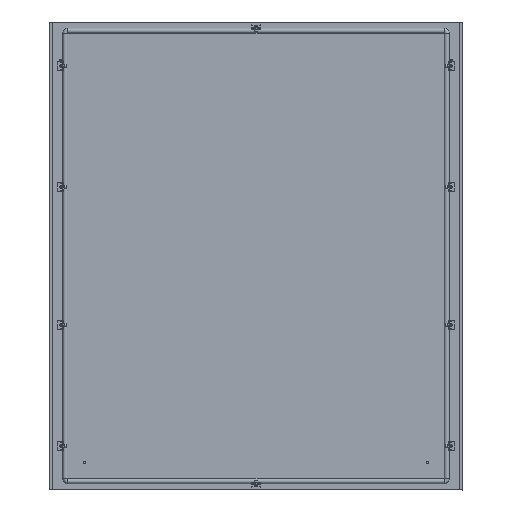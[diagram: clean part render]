
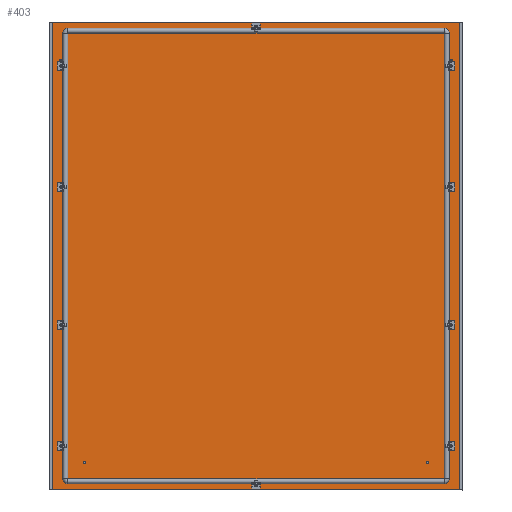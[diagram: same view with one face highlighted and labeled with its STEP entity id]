
A CAD part, top view. The second image highlights one B-rep face of the part: STEP entity #403.
In plain terms, the highlighted planar face has unit normal (0, 0, 1).
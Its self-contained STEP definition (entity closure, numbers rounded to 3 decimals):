
#403 = ADVANCED_FACE('',(#404,#502,#513,#524,#535,#546,#566,#586,#597,
    #608,#628),#648,.F.);
#404 = FACE_BOUND('',#405,.T.);
#405 = EDGE_LOOP('',(#406,#416,#424,#432,#440,#448,#456,#464,#472,#480,
    #488,#496));
#406 = ORIENTED_EDGE('',*,*,#407,.F.);
#407 = EDGE_CURVE('',#408,#410,#412,.T.);
#408 = VERTEX_POINT('',#409);
#409 = CARTESIAN_POINT('',(-595.5,677.5,0.));
#410 = VERTEX_POINT('',#411);
#411 = CARTESIAN_POINT('',(-595.3,677.5,0.));
#412 = LINE('',#413,#414);
#413 = CARTESIAN_POINT('',(0.,677.5,0.)
  );
#414 = VECTOR('',#415,1.);
#415 = DIRECTION('',(1.,0.,0.));
#416 = ORIENTED_EDGE('',*,*,#417,.T.);
#417 = EDGE_CURVE('',#408,#418,#420,.T.);
#418 = VERTEX_POINT('',#419);
#419 = CARTESIAN_POINT('',(-595.5,-677.5,
    0.));
#420 = LINE('',#421,#422);
#421 = CARTESIAN_POINT('',(-595.5,0.,0.));
#422 = VECTOR('',#423,1.);
#423 = DIRECTION('',(0.,-1.,-0.));
#424 = ORIENTED_EDGE('',*,*,#425,.T.);
#425 = EDGE_CURVE('',#418,#426,#428,.T.);
#426 = VERTEX_POINT('',#427);
#427 = CARTESIAN_POINT('',(-595.3,-677.5,
    0.));
#428 = LINE('',#429,#430);
#429 = CARTESIAN_POINT('',(0.,-677.5,
    0.));
#430 = VECTOR('',#431,1.);
#431 = DIRECTION('',(1.,-0.,-0.));
#432 = ORIENTED_EDGE('',*,*,#433,.F.);
#433 = EDGE_CURVE('',#434,#426,#436,.T.);
#434 = VERTEX_POINT('',#435);
#435 = CARTESIAN_POINT('',(-595.3,-676.,0.));
#436 = LINE('',#437,#438);
#437 = CARTESIAN_POINT('',(-595.3,0.,
    0.));
#438 = VECTOR('',#439,1.);
#439 = DIRECTION('',(0.,-1.,0.));
#440 = ORIENTED_EDGE('',*,*,#441,.T.);
#441 = EDGE_CURVE('',#434,#442,#444,.T.);
#442 = VERTEX_POINT('',#443);
#443 = CARTESIAN_POINT('',(595.3,-676.,0.));
#444 = LINE('',#445,#446);
#445 = CARTESIAN_POINT('',(0.,-676.,0.)
  );
#446 = VECTOR('',#447,1.);
#447 = DIRECTION('',(1.,-0.,-0.));
#448 = ORIENTED_EDGE('',*,*,#449,.T.);
#449 = EDGE_CURVE('',#442,#450,#452,.T.);
#450 = VERTEX_POINT('',#451);
#451 = CARTESIAN_POINT('',(595.3,-677.5,0.));
#452 = LINE('',#453,#454);
#453 = CARTESIAN_POINT('',(595.3,-676.,0.));
#454 = VECTOR('',#455,1.);
#455 = DIRECTION('',(0.,-1.,-0.));
#456 = ORIENTED_EDGE('',*,*,#457,.F.);
#457 = EDGE_CURVE('',#458,#450,#460,.T.);
#458 = VERTEX_POINT('',#459);
#459 = CARTESIAN_POINT('',(595.5,-677.5,0.));
#460 = LINE('',#461,#462);
#461 = CARTESIAN_POINT('',(0.,-677.5,0.
    ));
#462 = VECTOR('',#463,1.);
#463 = DIRECTION('',(-1.,0.,0.));
#464 = ORIENTED_EDGE('',*,*,#465,.T.);
#465 = EDGE_CURVE('',#458,#466,#468,.T.);
#466 = VERTEX_POINT('',#467);
#467 = CARTESIAN_POINT('',(595.5,677.5,0.));
#468 = LINE('',#469,#470);
#469 = CARTESIAN_POINT('',(595.5,0.,0.));
#470 = VECTOR('',#471,1.);
#471 = DIRECTION('',(-0.,1.,-0.));
#472 = ORIENTED_EDGE('',*,*,#473,.T.);
#473 = EDGE_CURVE('',#466,#474,#476,.T.);
#474 = VERTEX_POINT('',#475);
#475 = CARTESIAN_POINT('',(595.3,677.5,0.));
#476 = LINE('',#477,#478);
#477 = CARTESIAN_POINT('',(0.,677.5,0.)
  );
#478 = VECTOR('',#479,1.);
#479 = DIRECTION('',(-1.,-0.,-0.));
#480 = ORIENTED_EDGE('',*,*,#481,.F.);
#481 = EDGE_CURVE('',#482,#474,#484,.T.);
#482 = VERTEX_POINT('',#483);
#483 = CARTESIAN_POINT('',(595.3,676.,0.));
#484 = LINE('',#485,#486);
#485 = CARTESIAN_POINT('',(595.3,0.,
    0.));
#486 = VECTOR('',#487,1.);
#487 = DIRECTION('',(0.,1.,0.));
#488 = ORIENTED_EDGE('',*,*,#489,.T.);
#489 = EDGE_CURVE('',#482,#490,#492,.T.);
#490 = VERTEX_POINT('',#491);
#491 = CARTESIAN_POINT('',(-595.3,676.,0.));
#492 = LINE('',#493,#494);
#493 = CARTESIAN_POINT('',(0.,676.,0.)
  );
#494 = VECTOR('',#495,1.);
#495 = DIRECTION('',(-1.,-0.,-0.));
#496 = ORIENTED_EDGE('',*,*,#497,.T.);
#497 = EDGE_CURVE('',#490,#410,#498,.T.);
#498 = LINE('',#499,#500);
#499 = CARTESIAN_POINT('',(-595.3,676.,0.));
#500 = VECTOR('',#501,1.);
#501 = DIRECTION('',(0.,1.,-0.));
#502 = FACE_BOUND('',#503,.T.);
#503 = EDGE_LOOP('',(#504));
#504 = ORIENTED_EDGE('',*,*,#505,.T.);
#505 = EDGE_CURVE('',#506,#506,#508,.T.);
#506 = VERTEX_POINT('',#507);
#507 = CARTESIAN_POINT('',(-4.75,664.5,0.));
#508 = CIRCLE('',#509,4.75);
#509 = AXIS2_PLACEMENT_3D('',#510,#511,#512);
#510 = CARTESIAN_POINT('',(0.,664.5,0.));
#511 = DIRECTION('',(0.,0.,-1.));
#512 = DIRECTION('',(-1.,0.,0.));
#513 = FACE_BOUND('',#514,.T.);
#514 = EDGE_LOOP('',(#515));
#515 = ORIENTED_EDGE('',*,*,#516,.T.);
#516 = EDGE_CURVE('',#517,#517,#519,.T.);
#517 = VERTEX_POINT('',#518);
#518 = CARTESIAN_POINT('',(4.75,-664.5,0.));
#519 = CIRCLE('',#520,4.75);
#520 = AXIS2_PLACEMENT_3D('',#521,#522,#523);
#521 = CARTESIAN_POINT('',(0.,-664.5,0.));
#522 = DIRECTION('',(0.,0.,-1.));
#523 = DIRECTION('',(1.,0.,0.));
#524 = FACE_BOUND('',#525,.T.);
#525 = EDGE_LOOP('',(#526));
#526 = ORIENTED_EDGE('',*,*,#527,.T.);
#527 = EDGE_CURVE('',#528,#528,#530,.T.);
#528 = VERTEX_POINT('',#529);
#529 = CARTESIAN_POINT('',(-564.5,-195.25,
    0.));
#530 = CIRCLE('',#531,4.75);
#531 = AXIS2_PLACEMENT_3D('',#532,#533,#534);
#532 = CARTESIAN_POINT('',(-564.5,-200.,
    0.));
#533 = DIRECTION('',(0.,0.,-1.));
#534 = DIRECTION('',(0.,1.,0.));
#535 = FACE_BOUND('',#536,.T.);
#536 = EDGE_LOOP('',(#537));
#537 = ORIENTED_EDGE('',*,*,#538,.T.);
#538 = EDGE_CURVE('',#539,#539,#541,.T.);
#539 = VERTEX_POINT('',#540);
#540 = CARTESIAN_POINT('',(564.5,-204.75,
    0.));
#541 = CIRCLE('',#542,4.75);
#542 = AXIS2_PLACEMENT_3D('',#543,#544,#545);
#543 = CARTESIAN_POINT('',(564.5,-200.,0.));
#544 = DIRECTION('',(-0.,0.,-1.));
#545 = DIRECTION('',(0.,-1.,0.));
#546 = FACE_BOUND('',#547,.T.);
#547 = EDGE_LOOP('',(#548,#559));
#548 = ORIENTED_EDGE('',*,*,#549,.F.);
#549 = EDGE_CURVE('',#550,#552,#554,.T.);
#550 = VERTEX_POINT('',#551);
#551 = CARTESIAN_POINT('',(-564.5,554.75,
    0.));
#552 = VERTEX_POINT('',#553);
#553 = CARTESIAN_POINT('',(-564.5,545.25,
    0.));
#554 = CIRCLE('',#555,4.75);
#555 = AXIS2_PLACEMENT_3D('',#556,#557,#558);
#556 = CARTESIAN_POINT('',(-564.5,550.,
    0.));
#557 = DIRECTION('',(0.,0.,1.));
#558 = DIRECTION('',(0.,1.,0.));
#559 = ORIENTED_EDGE('',*,*,#560,.F.);
#560 = EDGE_CURVE('',#552,#550,#561,.T.);
#561 = CIRCLE('',#562,4.75);
#562 = AXIS2_PLACEMENT_3D('',#563,#564,#565);
#563 = CARTESIAN_POINT('',(-564.5,550.,
    0.));
#564 = DIRECTION('',(0.,0.,1.));
#565 = DIRECTION('',(0.,1.,0.));
#566 = FACE_BOUND('',#567,.T.);
#567 = EDGE_LOOP('',(#568,#579));
#568 = ORIENTED_EDGE('',*,*,#569,.F.);
#569 = EDGE_CURVE('',#570,#572,#574,.T.);
#570 = VERTEX_POINT('',#571);
#571 = CARTESIAN_POINT('',(564.5,545.25,
    0.));
#572 = VERTEX_POINT('',#573);
#573 = CARTESIAN_POINT('',(564.5,554.75,
    0.));
#574 = CIRCLE('',#575,4.75);
#575 = AXIS2_PLACEMENT_3D('',#576,#577,#578);
#576 = CARTESIAN_POINT('',(564.5,550.,0.));
#577 = DIRECTION('',(0.,0.,1.));
#578 = DIRECTION('',(0.,-1.,0.));
#579 = ORIENTED_EDGE('',*,*,#580,.F.);
#580 = EDGE_CURVE('',#572,#570,#581,.T.);
#581 = CIRCLE('',#582,4.75);
#582 = AXIS2_PLACEMENT_3D('',#583,#584,#585);
#583 = CARTESIAN_POINT('',(564.5,550.,0.));
#584 = DIRECTION('',(0.,0.,1.));
#585 = DIRECTION('',(0.,-1.,0.));
#586 = FACE_BOUND('',#587,.T.);
#587 = EDGE_LOOP('',(#588));
#588 = ORIENTED_EDGE('',*,*,#589,.T.);
#589 = EDGE_CURVE('',#590,#590,#592,.T.);
#590 = VERTEX_POINT('',#591);
#591 = CARTESIAN_POINT('',(-564.5,-545.25,
    0.));
#592 = CIRCLE('',#593,4.75);
#593 = AXIS2_PLACEMENT_3D('',#594,#595,#596);
#594 = CARTESIAN_POINT('',(-564.5,-550.,
    0.));
#595 = DIRECTION('',(0.,0.,-1.));
#596 = DIRECTION('',(0.,1.,0.));
#597 = FACE_BOUND('',#598,.T.);
#598 = EDGE_LOOP('',(#599));
#599 = ORIENTED_EDGE('',*,*,#600,.T.);
#600 = EDGE_CURVE('',#601,#601,#603,.T.);
#601 = VERTEX_POINT('',#602);
#602 = CARTESIAN_POINT('',(564.5,-554.75,
    0.));
#603 = CIRCLE('',#604,4.75);
#604 = AXIS2_PLACEMENT_3D('',#605,#606,#607);
#605 = CARTESIAN_POINT('',(564.5,-550.,0.));
#606 = DIRECTION('',(-0.,0.,-1.));
#607 = DIRECTION('',(0.,-1.,0.));
#608 = FACE_BOUND('',#609,.T.);
#609 = EDGE_LOOP('',(#610,#621));
#610 = ORIENTED_EDGE('',*,*,#611,.F.);
#611 = EDGE_CURVE('',#612,#614,#616,.T.);
#612 = VERTEX_POINT('',#613);
#613 = CARTESIAN_POINT('',(564.5,195.25,
    0.));
#614 = VERTEX_POINT('',#615);
#615 = CARTESIAN_POINT('',(564.5,204.75,
    0.));
#616 = CIRCLE('',#617,4.75);
#617 = AXIS2_PLACEMENT_3D('',#618,#619,#620);
#618 = CARTESIAN_POINT('',(564.5,200.,0.));
#619 = DIRECTION('',(0.,0.,1.));
#620 = DIRECTION('',(0.,-1.,0.));
#621 = ORIENTED_EDGE('',*,*,#622,.F.);
#622 = EDGE_CURVE('',#614,#612,#623,.T.);
#623 = CIRCLE('',#624,4.75);
#624 = AXIS2_PLACEMENT_3D('',#625,#626,#627);
#625 = CARTESIAN_POINT('',(564.5,200.,0.));
#626 = DIRECTION('',(0.,0.,1.));
#627 = DIRECTION('',(0.,-1.,0.));
#628 = FACE_BOUND('',#629,.T.);
#629 = EDGE_LOOP('',(#630,#641));
#630 = ORIENTED_EDGE('',*,*,#631,.F.);
#631 = EDGE_CURVE('',#632,#634,#636,.T.);
#632 = VERTEX_POINT('',#633);
#633 = CARTESIAN_POINT('',(-564.5,204.75,
    0.));
#634 = VERTEX_POINT('',#635);
#635 = CARTESIAN_POINT('',(-564.5,195.25,
    0.));
#636 = CIRCLE('',#637,4.75);
#637 = AXIS2_PLACEMENT_3D('',#638,#639,#640);
#638 = CARTESIAN_POINT('',(-564.5,200.,
    0.));
#639 = DIRECTION('',(0.,0.,1.));
#640 = DIRECTION('',(0.,1.,0.));
#641 = ORIENTED_EDGE('',*,*,#642,.F.);
#642 = EDGE_CURVE('',#634,#632,#643,.T.);
#643 = CIRCLE('',#644,4.75);
#644 = AXIS2_PLACEMENT_3D('',#645,#646,#647);
#645 = CARTESIAN_POINT('',(-564.5,200.,
    0.));
#646 = DIRECTION('',(0.,0.,1.));
#647 = DIRECTION('',(0.,1.,0.));
#648 = PLANE('',#649);
#649 = AXIS2_PLACEMENT_3D('',#650,#651,#652);
#650 = CARTESIAN_POINT('',(0.,0.,0.));
#651 = DIRECTION('',(0.,0.,-1.));
#652 = DIRECTION('',(-1.,0.,0.));
